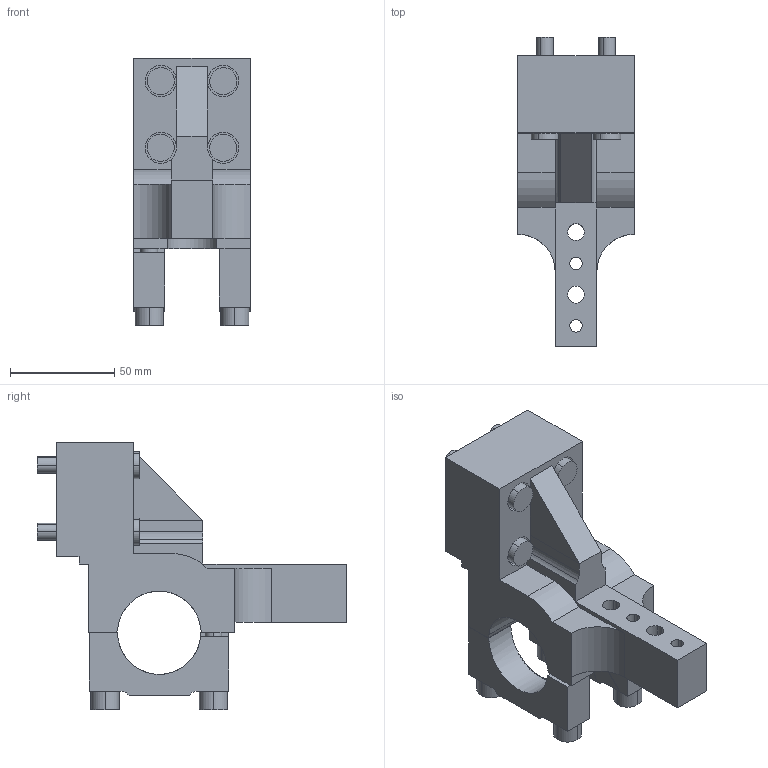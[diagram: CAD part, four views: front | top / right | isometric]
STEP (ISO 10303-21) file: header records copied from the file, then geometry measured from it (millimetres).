
FILE_DESCRIPTION(('STEP AP214'),'1');
FILE_NAME('EGT199_1720299_RD40_K50_VLR.CATPart.stp','2015-09-14T13:12:46',('3D-Tool'),(' '),'Spatial InterOp 3D',' ',' ');
FILE_SCHEMA(('automotive_design'));
Length unit declared in the file: millimetre
Products named in the file (11): EGT199_1720299_RD40_K50_VLR|EGT199_RD40_K50_VLR|Bohrbearbeitung; EGT199_1720299_RD40_K50_VLR|EGT206_SCHELLE_RD40_2|Assemble.113; EGT199_1720299_RD40_K50_VLR|EGT206_SCHELLE_RD40_1|Assemble.114; 1; 2; 3; 4; 5; 6; 7; 8
Bounding box: 56 x 148.5 x 128.5 mm (x, y, z)
Volume: 308508.1 mm3; surface area: 73116.7 mm2
Topology: 11 solids, 11 shells, 431 faces, 1134 edges, 754 vertices
Faces by surface type: plane 223, cylinder 208
Entity records: 18136 total; most frequent: CARTESIAN_POINT 3602, DIRECTION 2274, ORIENTED_EDGE 2268, EDGE_CURVE 1134, AXIS2_PLACEMENT_3D 842, VERTEX_POINT 754, LINE 590, VECTOR 590
